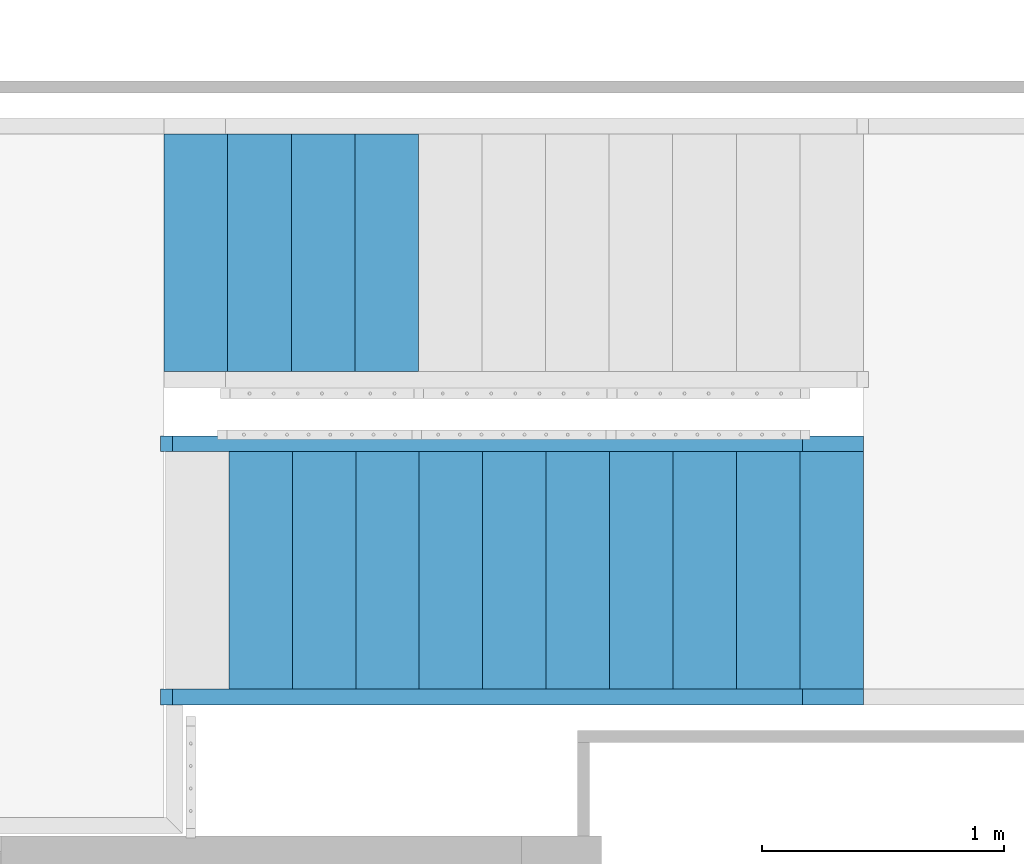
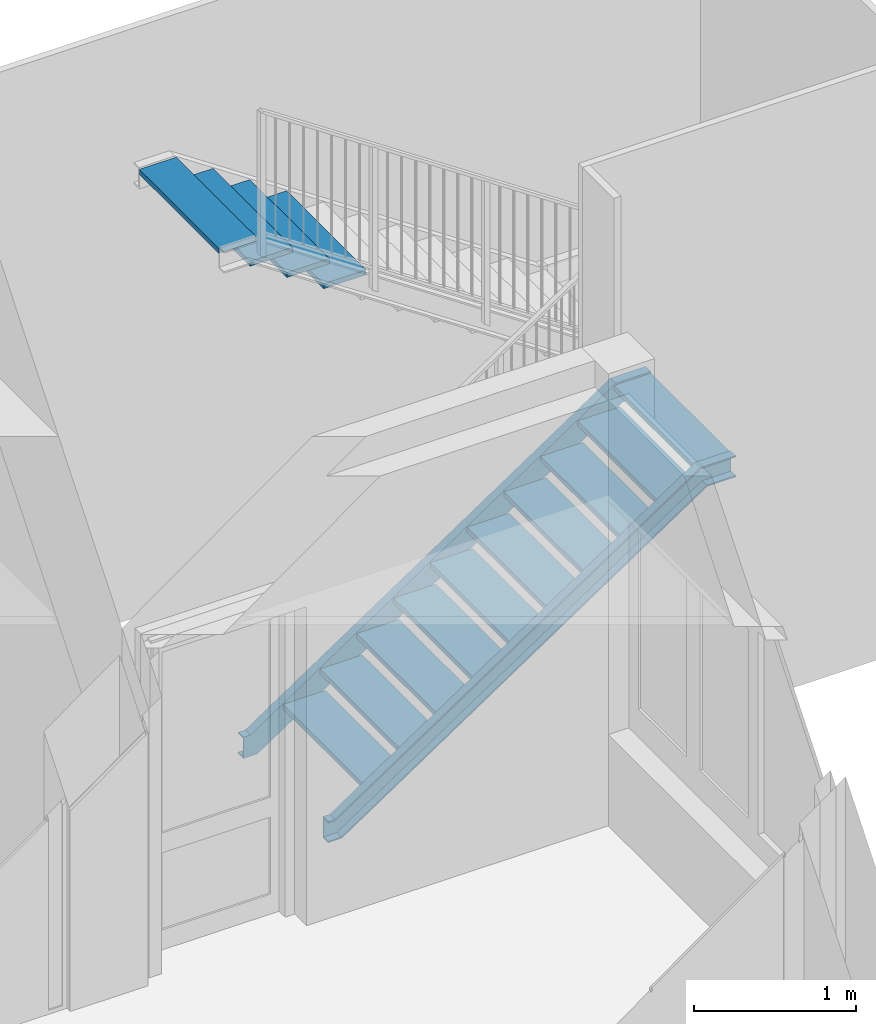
# One storey, part 23 of 117: 16 members, 2 elements without a shape of their own.
"""IFC2X3 building model written with IfcOpenShell, lengths in millimetres."""

from ifc_helpers import new_model, entity, si_unit, converted_unit, derived_unit, money_unit, direction, frame, origin_with_axes, place, context, subcontext, project, spatial, faceted_brep, material, type_object, element, aggregate, save


model = new_model("IFC2X3")

# Units and contexts
model_context = context("Model", 3, precision=0.01, world=origin_with_axes(), true_north=direction((0.0, 1.0)))
body_context = subcontext(model_context, "Body", "Model", "MODEL_VIEW")
ifc_project = project(units=[si_unit("LENGTHUNIT", "METRE", prefix="MILLI"), si_unit("AREAUNIT", "SQUARE_METRE"), si_unit("VOLUMEUNIT", "CUBIC_METRE"), converted_unit("PLANEANGLEUNIT", "DEGREE", entity("IfcPlaneAngleMeasure", 0.0174532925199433), si_unit("PLANEANGLEUNIT", "RADIAN"), dimensions=[0, 0, 0, 0, 0, 0, 0]), money_unit("EUR"), converted_unit("TIMEUNIT", "Year", entity("IfcTimeMeasure", 31557600.0), si_unit("TIMEUNIT", "SECOND"), dimensions=[0, 0, 1, 0, 0, 0, 0]), si_unit("MASSUNIT", "GRAM", prefix="KILO"), si_unit("THERMODYNAMICTEMPERATUREUNIT", "DEGREE_CELSIUS"), si_unit("LUMINOUSINTENSITYUNIT", "LUMEN"), si_unit("ENERGYUNIT", "JOULE", prefix="MEGA"), derived_unit("THERMALCONDUCTANCEUNIT", [(si_unit("POWERUNIT", "WATT"), 1), (si_unit("LENGTHUNIT", "METRE"), -1), (si_unit("THERMODYNAMICTEMPERATUREUNIT", "KELVIN"), -1)]), derived_unit("SPECIFICHEATCAPACITYUNIT", [(si_unit("ENERGYUNIT", "JOULE"), 1), (si_unit("MASSUNIT", "GRAM", prefix="KILO"), -1), (si_unit("THERMODYNAMICTEMPERATUREUNIT", "KELVIN"), -1)]), derived_unit("MASSDENSITYUNIT", [(si_unit("MASSUNIT", "GRAM", prefix="KILO"), 1), (si_unit("VOLUMEUNIT", "CUBIC_METRE"), -1)])], contexts=[model_context])

# Site, building, storey
site_placement = place(None, origin_with_axes())
site = spatial("IfcSite", under=ifc_project, at=site_placement, Name="Site", CompositionType="ELEMENT")
building_placement = place(site_placement, origin_with_axes())
building = spatial("IfcBuilding", under=site, at=building_placement, Name="Naam gebouw", CompositionType="ELEMENT")
storey_placement = place(building_placement, frame((0.0, 0.0, 4150.0), z_axis=(0.0, 0.0, 1.0), x_axis=(1.0, 0.0, 0.0)))
storey = spatial("IfcBuildingStorey", under=building, at=storey_placement, Name="1e verdieping N", CompositionType="ELEMENT", Elevation=4150.0)

# Stair, members
stair_1_placement = place(storey_placement, frame((56130.0, 22240.9124251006, -174.0000000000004), z_axis=(0.0, 0.0, 1.0), x_axis=(-1.0, 0.0, 0.0)))
stair_1 = element("IfcStair", 1, at=stair_1_placement, inside=storey, Name="_Trap-x", ShapeType="NOTDEFINED")
ifc_material = material(Name="Metaal - Staal C")
member_type_1 = type_object("IfcMemberType", Name="IfcMember", PredefinedType="NOTDEFINED")
member_1_placement = place(stair_1_placement, origin_with_axes())
member_1 = element("IfcMember", 2, at=member_1_placement, type_object=member_type_1, material=ifc_material, Name="_Trapconstructie-x", context=body_context, shape_type="Brep", body=[
    faceted_brep([(20.00000000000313, 0.0, 40.00000000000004), (20.00000000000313, -65.00000000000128, 40.00000000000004), (-77.08194542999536, -65.00000000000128, 40.00000000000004), (-77.08194542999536, 0.0, 40.00000000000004), (20.00000000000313, 0.0, 200.0000000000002), (20.00000000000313, -65.00000000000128, 200.0000000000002), (20.00000000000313, -65.00000000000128, 189.4999999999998), (20.00000000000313, -7.500000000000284, 189.4999999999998), (20.00000000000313, -7.500000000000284, 50.50000000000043), (20.00000000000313, -65.00000000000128, 50.50000000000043), (-73.89725855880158, -65.00000000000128, 50.50000000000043), (-342.088580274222, -65.00000000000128, 229.669040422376), (-603.9067620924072, -65.00000000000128, 404.5804137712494), (-865.7249439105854, -65.00000000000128, 579.4917871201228), (-1127.543125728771, -65.00000000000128, 754.4031604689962), (-1389.361307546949, -65.00000000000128, 929.3145338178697), (-1651.179489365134, -65.00000000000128, 1104.225907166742), (-1912.997671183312, -65.00000000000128, 1279.137280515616), (-2174.815853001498, -65.00000000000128, 1454.048653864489), (-2436.634034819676, -65.00000000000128, 1628.960027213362), (-2673.535012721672, -65.00000000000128, 1787.225106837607), (-2879.999999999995, -65.00000000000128, 1787.225106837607), (-2879.999999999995, -65.00000000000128, 1776.725106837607), (-2676.719699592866, -65.00000000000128, 1776.725106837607), (-2442.46683193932, -65.00000000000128, 1620.229135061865), (-2180.648650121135, -65.00000000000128, 1445.317761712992), (-1918.830468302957, -65.00000000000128, 1270.406388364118), (-1657.012286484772, -65.00000000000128, 1095.495015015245), (-1395.194104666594, -65.00000000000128, 920.5836416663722), (-1133.375922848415, -65.00000000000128, 745.6722683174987), (-871.5577410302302, -65.00000000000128, 570.7608949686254), (-609.739559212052, -65.00000000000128, 395.849521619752), (-347.9213773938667, -65.00000000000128, 220.9381482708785), (-2676.719699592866, 0.0, 1776.725106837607), (-2442.46683193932, 0.0, 1620.229135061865), (-2180.648650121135, 0.0, 1445.317761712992), (-1918.830468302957, 0.0, 1270.406388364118), (-1657.012286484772, 0.0, 1095.495015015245), (-1395.194104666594, 0.0, 920.5836416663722), (-1133.375922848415, 0.0, 745.6722683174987), (-871.5577410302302, 0.0, 570.7608949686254), (-609.739559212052, 0.0, 395.849521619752), (-347.9213773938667, 0.0, 220.9381482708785), (-2879.999999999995, 0.0, 1776.725106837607), (-2879.999999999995, 0.0, 1936.725106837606), (-2628.191137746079, 0.0, 1936.725106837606), (-2353.586113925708, 0.0, 1753.271301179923), (-2091.767932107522, 0.0, 1578.359927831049), (-1829.949750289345, 0.0, 1403.448554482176), (-1568.131568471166, 0.0, 1228.537181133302), (-1306.313386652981, 0.0, 1053.625807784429), (-1044.495204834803, 0.0, 878.7144344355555), (-782.6770230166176, 0.0, 703.803061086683), (-520.8588411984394, 0.0, 528.8916877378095), (-259.0406593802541, 0.0, 353.9803143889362), (-28.55338358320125, 0.0, 200.0000000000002), (-28.55338358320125, -65.00000000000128, 200.0000000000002), (-259.0406593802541, -65.00000000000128, 353.9803143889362), (-520.8588411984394, -65.00000000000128, 528.8916877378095), (-782.6770230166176, -65.00000000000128, 703.803061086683), (-1044.495204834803, -65.00000000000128, 878.7144344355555), (-1306.313386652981, -65.00000000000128, 1053.625807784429), (-1568.131568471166, -65.00000000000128, 1228.537181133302), (-1829.949750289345, -65.00000000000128, 1403.448554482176), (-2091.767932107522, -65.00000000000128, 1578.359927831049), (-2353.586113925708, -65.00000000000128, 1753.271301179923), (-2628.191137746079, -65.00000000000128, 1936.725106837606), (-2879.999999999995, -65.00000000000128, 1936.725106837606), (-2879.999999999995, -65.00000000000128, 1926.225106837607), (-2631.375824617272, -65.00000000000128, 1926.225106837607), (-2359.418911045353, -65.00000000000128, 1744.540409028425), (-2097.600729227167, -65.00000000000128, 1569.629035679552), (-1835.782547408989, -65.00000000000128, 1394.717662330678), (-1573.964365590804, -65.00000000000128, 1219.806288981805), (-1312.146183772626, -65.00000000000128, 1044.894915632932), (-1050.32800195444, -65.00000000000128, 869.9835422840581), (-788.5098201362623, -65.00000000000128, 695.0721689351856), (-526.6916383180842, -65.00000000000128, 520.1607955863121), (-264.8734564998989, -65.00000000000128, 345.2494222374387), (-31.73807045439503, -65.00000000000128, 189.4999999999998), (-31.73807045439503, -7.500000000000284, 189.4999999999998), (-264.8734564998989, -7.500000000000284, 345.2494222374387), (-526.6916383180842, -7.500000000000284, 520.1607955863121), (-788.5098201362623, -7.500000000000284, 695.0721689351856), (-1050.32800195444, -7.500000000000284, 869.9835422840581), (-1312.146183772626, -7.500000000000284, 1044.894915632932), (-1573.964365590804, -7.500000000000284, 1219.806288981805), (-1835.782547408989, -7.500000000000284, 1394.717662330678), (-2097.600729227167, -7.500000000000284, 1569.629035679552), (-2359.418911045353, -7.500000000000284, 1744.540409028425), (-2631.375824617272, -7.500000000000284, 1926.225106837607), (-2879.999999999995, -7.500000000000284, 1926.225106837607), (-2879.999999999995, -7.500000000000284, 1787.225106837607), (-2673.535012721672, -7.500000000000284, 1787.225106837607), (-2436.634034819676, -7.500000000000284, 1628.960027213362), (-2174.815853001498, -7.500000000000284, 1454.048653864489), (-1912.997671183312, -7.500000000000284, 1279.137280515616), (-1651.179489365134, -7.500000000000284, 1104.225907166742), (-1389.361307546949, -7.500000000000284, 929.3145338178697), (-1127.543125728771, -7.500000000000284, 754.4031604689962), (-865.7249439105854, -7.500000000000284, 579.4917871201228), (-603.9067620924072, -7.500000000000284, 404.5804137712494), (-342.088580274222, -7.500000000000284, 229.669040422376), (-73.89725855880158, -7.500000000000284, 50.50000000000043)], [[[0, 1, 2, 3]], [[0, 4, 5, 6, 7, 8, 9, 1]], [[1, 9, 10, 11, 12, 13, 14, 15, 16, 17, 18, 19, 20, 21, 22, 23, 24, 25, 26, 27, 28, 29, 30, 31, 32, 2]], [[3, 2, 32, 31, 30, 29, 28, 27, 26, 25, 24, 23, 33, 34, 35, 36, 37, 38, 39, 40, 41, 42]], [[4, 0, 3, 42, 41, 40, 39, 38, 37, 36, 35, 34, 33, 43, 44, 45, 46, 47, 48, 49, 50, 51, 52, 53, 54, 55]], [[5, 4, 55, 56]], [[6, 5, 56, 57, 58, 59, 60, 61, 62, 63, 64, 65, 66, 67, 68, 69, 70, 71, 72, 73, 74, 75, 76, 77, 78, 79]], [[7, 6, 79, 80]], [[8, 7, 80, 81, 82, 83, 84, 85, 86, 87, 88, 89, 90, 91, 92, 93, 94, 95, 96, 97, 98, 99, 100, 101, 102, 103]], [[9, 8, 103, 10]], [[10, 103, 102, 101, 100, 99, 98, 97, 96, 95, 94, 93, 20, 19, 18, 17, 16, 15, 14, 13, 12, 11]], [[20, 93, 92, 21]], [[43, 22, 21, 92, 91, 68, 67, 44]], [[33, 23, 22, 43]], [[66, 45, 44, 67]], [[56, 55, 54, 53, 52, 51, 50, 49, 48, 47, 46, 45, 66, 65, 64, 63, 62, 61, 60, 59, 58, 57]], [[90, 69, 68, 91]], [[80, 79, 78, 77, 76, 75, 74, 73, 72, 71, 70, 69, 90, 89, 88, 87, 86, 85, 84, 83, 82, 81]]]),
])
member_2_placement = place(stair_1_placement, origin_with_axes())
member_2 = element("IfcMember", 3, at=member_2_placement, type_object=member_type_1, material=ifc_material, Name="_Trapconstructie-x", context=body_context, shape_type="Brep", body=[
    faceted_brep([(20.00000000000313, 979.9999999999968, 40.00000000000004), (20.00000000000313, 979.9999999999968, 200.0000000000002), (-28.55338358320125, 979.9999999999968, 200.0000000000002), (-259.0406593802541, 979.9999999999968, 353.9803143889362), (-520.8588411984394, 979.9999999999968, 528.8916877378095), (-782.6770230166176, 979.9999999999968, 703.803061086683), (-1044.495204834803, 979.9999999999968, 878.7144344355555), (-1306.313386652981, 979.9999999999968, 1053.625807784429), (-1568.131568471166, 979.9999999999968, 1228.537181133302), (-1829.949750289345, 979.9999999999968, 1403.448554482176), (-2091.767932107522, 979.9999999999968, 1578.359927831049), (-2353.586113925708, 979.9999999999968, 1753.271301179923), (-2628.191137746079, 979.9999999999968, 1936.725106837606), (-2879.999999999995, 979.9999999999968, 1936.725106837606), (-2879.999999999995, 979.9999999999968, 1776.725106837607), (-2676.719699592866, 979.9999999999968, 1776.725106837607), (-2442.46683193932, 979.9999999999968, 1620.229135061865), (-2180.648650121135, 979.9999999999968, 1445.317761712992), (-1918.830468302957, 979.9999999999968, 1270.406388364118), (-1657.012286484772, 979.9999999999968, 1095.495015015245), (-1395.194104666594, 979.9999999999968, 920.5836416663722), (-1133.375922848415, 979.9999999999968, 745.6722683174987), (-871.5577410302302, 979.9999999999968, 570.7608949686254), (-609.739559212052, 979.9999999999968, 395.849521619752), (-347.9213773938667, 979.9999999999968, 220.9381482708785), (-77.08194542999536, 979.9999999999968, 40.00000000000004), (20.00000000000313, 1044.999999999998, 40.00000000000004), (20.00000000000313, 1044.999999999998, 50.50000000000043), (20.00000000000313, 987.4999999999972, 50.50000000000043), (20.00000000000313, 987.4999999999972, 189.4999999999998), (20.00000000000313, 1044.999999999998, 189.4999999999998), (20.00000000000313, 1044.999999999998, 200.0000000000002), (-28.55338358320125, 1044.999999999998, 200.0000000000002), (-259.0406593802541, 1044.999999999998, 353.9803143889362), (-520.8588411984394, 1044.999999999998, 528.8916877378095), (-782.6770230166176, 1044.999999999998, 703.803061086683), (-1044.495204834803, 1044.999999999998, 878.7144344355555), (-1306.313386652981, 1044.999999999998, 1053.625807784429), (-1568.131568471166, 1044.999999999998, 1228.537181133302), (-1829.949750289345, 1044.999999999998, 1403.448554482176), (-2091.767932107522, 1044.999999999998, 1578.359927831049), (-2353.586113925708, 1044.999999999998, 1753.271301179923), (-2628.191137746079, 1044.999999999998, 1936.725106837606), (-2879.999999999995, 1044.999999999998, 1936.725106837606), (-2879.999999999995, 1044.999999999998, 1926.225106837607), (-2879.999999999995, 987.4999999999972, 1926.225106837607), (-2879.999999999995, 987.4999999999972, 1787.225106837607), (-2879.999999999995, 1044.999999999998, 1787.225106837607), (-2879.999999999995, 1044.999999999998, 1776.725106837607), (-2676.719699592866, 1044.999999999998, 1776.725106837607), (-77.08194542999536, 1044.999999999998, 40.00000000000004), (-2442.46683193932, 1044.999999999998, 1620.229135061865), (-2180.648650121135, 1044.999999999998, 1445.317761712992), (-1918.830468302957, 1044.999999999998, 1270.406388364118), (-1657.012286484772, 1044.999999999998, 1095.495015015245), (-1395.194104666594, 1044.999999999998, 920.5836416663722), (-1133.375922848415, 1044.999999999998, 745.6722683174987), (-871.5577410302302, 1044.999999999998, 570.7608949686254), (-609.739559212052, 1044.999999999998, 395.849521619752), (-347.9213773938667, 1044.999999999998, 220.9381482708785), (-2673.535012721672, 1044.999999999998, 1787.225106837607), (-2436.634034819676, 1044.999999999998, 1628.960027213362), (-2174.815853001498, 1044.999999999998, 1454.048653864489), (-1912.997671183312, 1044.999999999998, 1279.137280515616), (-1651.179489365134, 1044.999999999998, 1104.225907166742), (-1389.361307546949, 1044.999999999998, 929.3145338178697), (-1127.543125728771, 1044.999999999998, 754.4031604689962), (-865.7249439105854, 1044.999999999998, 579.4917871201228), (-603.9067620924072, 1044.999999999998, 404.5804137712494), (-342.088580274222, 1044.999999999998, 229.669040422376), (-73.89725855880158, 1044.999999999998, 50.50000000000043), (-73.89725855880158, 987.4999999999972, 50.50000000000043), (-342.088580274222, 987.4999999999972, 229.669040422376), (-603.9067620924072, 987.4999999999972, 404.5804137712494), (-865.7249439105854, 987.4999999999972, 579.4917871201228), (-1127.543125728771, 987.4999999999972, 754.4031604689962), (-1389.361307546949, 987.4999999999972, 929.3145338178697), (-1651.179489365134, 987.4999999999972, 1104.225907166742), (-1912.997671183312, 987.4999999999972, 1279.137280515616), (-2174.815853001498, 987.4999999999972, 1454.048653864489), (-2436.634034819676, 987.4999999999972, 1628.960027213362), (-2673.535012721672, 987.4999999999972, 1787.225106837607), (-2631.375824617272, 987.4999999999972, 1926.225106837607), (-2359.418911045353, 987.4999999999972, 1744.540409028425), (-2097.600729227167, 987.4999999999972, 1569.629035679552), (-1835.782547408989, 987.4999999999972, 1394.717662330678), (-1573.964365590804, 987.4999999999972, 1219.806288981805), (-1312.146183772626, 987.4999999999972, 1044.894915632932), (-1050.32800195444, 987.4999999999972, 869.9835422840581), (-788.5098201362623, 987.4999999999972, 695.0721689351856), (-526.6916383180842, 987.4999999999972, 520.1607955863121), (-264.8734564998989, 987.4999999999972, 345.2494222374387), (-31.73807045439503, 987.4999999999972, 189.4999999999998), (-31.73807045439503, 1044.999999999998, 189.4999999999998), (-264.8734564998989, 1044.999999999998, 345.2494222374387), (-526.6916383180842, 1044.999999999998, 520.1607955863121), (-788.5098201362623, 1044.999999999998, 695.0721689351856), (-1050.32800195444, 1044.999999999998, 869.9835422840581), (-1312.146183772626, 1044.999999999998, 1044.894915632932), (-1573.964365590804, 1044.999999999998, 1219.806288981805), (-1835.782547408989, 1044.999999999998, 1394.717662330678), (-2097.600729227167, 1044.999999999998, 1569.629035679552), (-2359.418911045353, 1044.999999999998, 1744.540409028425), (-2631.375824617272, 1044.999999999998, 1926.225106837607)], [[[0, 1, 2, 3, 4, 5, 6, 7, 8, 9, 10, 11, 12, 13, 14, 15, 16, 17, 18, 19, 20, 21, 22, 23, 24, 25]], [[0, 26, 27, 28, 29, 30, 31, 1]], [[1, 31, 32, 2]], [[2, 32, 33, 34, 35, 36, 37, 38, 39, 40, 41, 42, 12, 11, 10, 9, 8, 7, 6, 5, 4, 3]], [[12, 42, 43, 13]], [[14, 13, 43, 44, 45, 46, 47, 48]], [[49, 15, 14, 48]], [[50, 25, 24, 23, 22, 21, 20, 19, 18, 17, 16, 15, 49, 51, 52, 53, 54, 55, 56, 57, 58, 59]], [[26, 0, 25, 50]], [[27, 26, 50, 59, 58, 57, 56, 55, 54, 53, 52, 51, 49, 48, 47, 60, 61, 62, 63, 64, 65, 66, 67, 68, 69, 70]], [[28, 27, 70, 71]], [[29, 28, 71, 72, 73, 74, 75, 76, 77, 78, 79, 80, 81, 46, 45, 82, 83, 84, 85, 86, 87, 88, 89, 90, 91, 92]], [[30, 29, 92, 93]], [[31, 30, 93, 94, 95, 96, 97, 98, 99, 100, 101, 102, 103, 44, 43, 42, 41, 40, 39, 38, 37, 36, 35, 34, 33, 32]], [[103, 82, 45, 44]], [[81, 60, 47, 46]], [[71, 70, 69, 68, 67, 66, 65, 64, 63, 62, 61, 60, 81, 80, 79, 78, 77, 76, 75, 74, 73, 72]], [[93, 92, 91, 90, 89, 88, 87, 86, 85, 84, 83, 82, 103, 102, 101, 100, 99, 98, 97, 96, 95, 94]]]),
])
member_type_2 = type_object("IfcMemberType", Name="IfcMember", PredefinedType="USERDEFINED")
member_3_placement = place(stair_1_placement, frame((-261.8181818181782, 489.9999999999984, 349.8227466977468), z_axis=(0.0, 0.0, 1.0), x_axis=(0.0, 1.0, 0.0)))
member_3 = element("IfcMember", 4, at=member_3_placement, type_object=member_type_2, material=ifc_material, Name="_Traptrede-x", context=body_context, shape_type="Brep", body=[
    faceted_brep([(-490.0, 0.0, -38.0), (490.0, 0.0, -38.0), (490.0, 0.0, 0.0), (-490.0, 0.0, 0.0), (-490.0, 301.8181818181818, -38.0), (490.0, 301.8181818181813, -38.0), (490.0, 301.8181818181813, 0.0), (-490.0, 301.8181818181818, 0.0)], [[[0, 1, 2, 3]], [[0, 4, 5, 1]], [[1, 5, 6, 2]], [[3, 2, 6, 7]], [[4, 0, 3, 7]], [[5, 4, 7, 6]]]),
])
member_4_placement = place(stair_1_placement, frame((-785.4545454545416, 489.9999999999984, 699.6454933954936), z_axis=(0.0, 0.0, 1.0), x_axis=(0.0, 1.0, 0.0)))
member_4 = element("IfcMember", 5, at=member_4_placement, type_object=member_type_2, material=ifc_material, Name="_Traptrede-x", context=body_context, shape_type="Brep", body=[
    faceted_brep([(-490.0, 0.0, -38.0), (490.0, 0.0, -38.0), (490.0, 0.0, 0.0), (-490.0, 0.0, 0.0), (-490.0, 301.8181818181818, -38.0), (490.0, 301.8181818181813, -38.0), (490.0, 301.8181818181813, 0.0), (-490.0, 301.8181818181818, 0.0)], [[[0, 1, 2, 3]], [[0, 4, 5, 1]], [[1, 5, 6, 2]], [[3, 2, 6, 7]], [[4, 0, 3, 7]], [[5, 4, 7, 6]]]),
])
member_5_placement = place(stair_1_placement, frame((-1047.272727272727, 489.9999999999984, 874.5568667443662), z_axis=(0.0, 0.0, 1.0), x_axis=(0.0, 1.0, 0.0)))
member_5 = element("IfcMember", 6, at=member_5_placement, type_object=member_type_2, material=ifc_material, Name="_Traptrede-x", context=body_context, shape_type="Brep", body=[
    faceted_brep([(-490.0, 0.0, -38.0), (490.0, 0.0, -38.0), (490.0, 0.0, 0.0), (-490.0, 0.0, 0.0), (-490.0, 301.8181818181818, -38.0), (490.0, 301.8181818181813, -38.0), (490.0, 301.8181818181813, 0.0), (-490.0, 301.8181818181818, 0.0)], [[[0, 1, 2, 3]], [[0, 4, 5, 1]], [[1, 5, 6, 2]], [[3, 2, 6, 7]], [[4, 0, 3, 7]], [[5, 4, 7, 6]]]),
])
member_6_placement = place(stair_1_placement, frame((-1309.090909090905, 489.9999999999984, 1049.46824009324), z_axis=(0.0, 0.0, 1.0), x_axis=(0.0, 1.0, 0.0)))
member_6 = element("IfcMember", 7, at=member_6_placement, type_object=member_type_2, material=ifc_material, Name="_Traptrede-x", context=body_context, shape_type="Brep", body=[
    faceted_brep([(-490.0, 0.0, -38.0), (490.0, 0.0, -38.0), (490.0, 0.0, 0.0), (-490.0, 0.0, 0.0), (-490.0, 301.8181818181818, -38.0), (490.0, 301.8181818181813, -38.0), (490.0, 301.8181818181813, 0.0), (-490.0, 301.8181818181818, 0.0)], [[[0, 1, 2, 3]], [[0, 4, 5, 1]], [[1, 5, 6, 2]], [[3, 2, 6, 7]], [[4, 0, 3, 7]], [[5, 4, 7, 6]]]),
])
member_7_placement = place(stair_1_placement, frame((-1570.90909090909, 489.9999999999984, 1224.379613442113), z_axis=(0.0, 0.0, 1.0), x_axis=(0.0, 1.0, 0.0)))
member_7 = element("IfcMember", 8, at=member_7_placement, type_object=member_type_2, material=ifc_material, Name="_Traptrede-x", context=body_context, shape_type="Brep", body=[
    faceted_brep([(-490.0, 0.0, -38.0), (490.0, 0.0, -38.0), (490.0, 0.0, 0.0), (-490.0, 0.0, 0.0), (-490.0, 301.8181818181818, -38.0), (490.0, 301.8181818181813, -38.0), (490.0, 301.8181818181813, 0.0), (-490.0, 301.8181818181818, 0.0)], [[[0, 1, 2, 3]], [[0, 4, 5, 1]], [[1, 5, 6, 2]], [[3, 2, 6, 7]], [[4, 0, 3, 7]], [[5, 4, 7, 6]]]),
])
member_8_placement = place(stair_1_placement, frame((-1832.727272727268, 489.9999999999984, 1399.290986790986), z_axis=(0.0, 0.0, 1.0), x_axis=(0.0, 1.0, 0.0)))
member_8 = element("IfcMember", 9, at=member_8_placement, type_object=member_type_2, material=ifc_material, Name="_Traptrede-x", context=body_context, shape_type="Brep", body=[
    faceted_brep([(-490.0, 0.0, -38.0), (490.0, 0.0, -38.0), (490.0, 0.0, 0.0), (-490.0, 0.0, 0.0), (-490.0, 301.8181818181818, -38.0), (490.0, 301.8181818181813, -38.0), (490.0, 301.8181818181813, 0.0), (-490.0, 301.8181818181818, 0.0)], [[[0, 1, 2, 3]], [[0, 4, 5, 1]], [[1, 5, 6, 2]], [[3, 2, 6, 7]], [[4, 0, 3, 7]], [[5, 4, 7, 6]]]),
])
member_9_placement = place(stair_1_placement, frame((-2356.363636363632, 489.9999999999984, 1749.113733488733), z_axis=(0.0, 0.0, 1.0), x_axis=(0.0, 1.0, 0.0)))
member_9 = element("IfcMember", 10, at=member_9_placement, type_object=member_type_2, material=ifc_material, Name="_Traptrede-x", context=body_context, shape_type="Brep", body=[
    faceted_brep([(-490.0, 0.0, -38.0), (490.0, 0.0, -38.0), (490.0, 0.0, 0.0), (-490.0, 0.0, 0.0), (-490.0, 301.8181818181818, -38.0), (490.0, 301.8181818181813, -38.0), (490.0, 301.8181818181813, 0.0), (-490.0, 301.8181818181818, 0.0)], [[[0, 1, 2, 3]], [[0, 4, 5, 1]], [[1, 5, 6, 2]], [[3, 2, 6, 7]], [[4, 0, 3, 7]], [[5, 4, 7, 6]]]),
])
member_10_placement = place(stair_1_placement, frame((-2618.181818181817, 489.9999999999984, 1924.025106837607), z_axis=(0.0, 0.0, 1.0), x_axis=(0.0, 1.0, 0.0)))
member_10 = element("IfcMember", 11, at=member_10_placement, type_object=member_type_2, material=ifc_material, Name="_Traptrede-x", context=body_context, shape_type="Brep", body=[
    faceted_brep([(-490.0, 0.0, -38.0), (489.9999999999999, 0.0, -38.0), (489.9999999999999, 0.0, 0.0), (-490.0, 0.0, 0.0), (-490.0000000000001, 261.8181818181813, -38.0), (489.9999999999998, 261.8181818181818, -38.0), (489.9999999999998, 261.8181818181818, 0.0), (-490.0000000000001, 261.8181818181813, 0.0)], [[[0, 1, 2, 3]], [[0, 4, 5, 1]], [[1, 5, 6, 2]], [[3, 2, 6, 7]], [[4, 0, 3, 7]], [[5, 4, 7, 6]]]),
])
member_11_placement = place(stair_1_placement, frame((-523.6363636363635, 489.9999999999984, 524.7341200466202), z_axis=(0.0, 0.0, 1.0), x_axis=(0.0, 1.0, 0.0)))
member_11 = element("IfcMember", 12, at=member_11_placement, type_object=member_type_2, material=ifc_material, Name="_Traptrede-x", context=body_context, shape_type="Brep", body=[
    faceted_brep([(-490.0, 0.0, -38.0), (490.0, 0.0, -38.0), (490.0, 0.0, 0.0), (-490.0, 0.0, 0.0), (-490.0, 301.8181818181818, -38.0), (490.0, 301.8181818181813, -38.0), (490.0, 301.8181818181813, 0.0), (-490.0, 301.8181818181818, 0.0)], [[[0, 1, 2, 3]], [[0, 4, 5, 1]], [[1, 5, 6, 2]], [[3, 2, 6, 7]], [[4, 0, 3, 7]], [[5, 4, 7, 6]]]),
])
member_12_placement = place(stair_1_placement, frame((-2094.545454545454, 489.9999999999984, 1574.20236013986), z_axis=(0.0, 0.0, 1.0), x_axis=(0.0, 1.0, 0.0)))
member_12 = element("IfcMember", 13, at=member_12_placement, type_object=member_type_2, material=ifc_material, Name="_Traptrede-x", context=body_context, shape_type="Brep", body=[
    faceted_brep([(-490.0, 0.0, -38.0), (490.0, 0.0, -38.0), (490.0, 0.0, 0.0), (-490.0, 0.0, 0.0), (-490.0, 301.8181818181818, -38.0), (490.0, 301.8181818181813, -38.0), (490.0, 301.8181818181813, 0.0), (-490.0, 301.8181818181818, 0.0)], [[[0, 1, 2, 3]], [[0, 4, 5, 1]], [[1, 5, 6, 2]], [[3, 2, 6, 7]], [[4, 0, 3, 7]], [[5, 4, 7, 6]]]),
])
aggregate(stair_1, [member_1, member_2, member_3, member_4, member_5, member_6, member_7, member_8, member_9, member_10, member_11, member_12])

stair_2_placement = place(storey_placement, frame((59009.99999999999, 22570.91242510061, 1562.7), z_axis=(0.0, 0.0, 1.0), x_axis=(1.0, 0.0, 0.0)))
stair_2 = element("IfcStair", 14, at=stair_2_placement, inside=storey, Name="_Trap-x", ShapeType="NOTDEFINED")
member_13_placement = place(stair_2_placement, frame((-1836.130050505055, 489.9999999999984, 1408.964646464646), z_axis=(0.0, 0.0, 1.0), x_axis=(0.0, 1.0, 0.0)))
member_13 = element("IfcMember", 15, at=member_13_placement, type_object=member_type_2, material=ifc_material, Name="_Traptrede-x", context=body_context, shape_type="Brep", body=[
    faceted_brep([(-490.0, 0.0, -38.0), (490.0, 0.0, -38.0), (490.0, 0.0, 0.0), (-490.0, 0.0, 0.0), (-490.0, 302.304292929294, -38.0), (490.0, 302.3042929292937, -38.0), (490.0, 302.3042929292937, 0.0), (-490.0, 302.304292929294, 0.0)], [[[0, 1, 2, 3]], [[0, 4, 5, 1]], [[1, 5, 6, 2]], [[3, 2, 6, 7]], [[4, 0, 3, 7]], [[5, 4, 7, 6]]]),
])
member_14_placement = place(stair_2_placement, frame((-2098.434343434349, 489.9999999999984, 1585.085227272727), z_axis=(0.0, 0.0, 1.0), x_axis=(0.0, 1.0, 0.0)))
member_14 = element("IfcMember", 16, at=member_14_placement, type_object=member_type_2, material=ifc_material, Name="_Traptrede-x", context=body_context, shape_type="Brep", body=[
    faceted_brep([(-490.0, 0.0, -38.0), (490.0, 0.0, -38.0), (490.0, 0.0, 0.0), (-490.0, 0.0, 0.0), (-490.0, 302.304292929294, -38.0), (490.0, 302.3042929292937, -38.0), (490.0, 302.3042929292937, 0.0), (-490.0, 302.304292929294, 0.0)], [[[0, 1, 2, 3]], [[0, 4, 5, 1]], [[1, 5, 6, 2]], [[3, 2, 6, 7]], [[4, 0, 3, 7]], [[5, 4, 7, 6]]]),
])
member_15_placement = place(stair_2_placement, frame((-2623.042929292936, 489.9999999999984, 1937.326388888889), z_axis=(0.0, 0.0, 1.0), x_axis=(0.0, 1.0, 0.0)))
member_15 = element("IfcMember", 17, at=member_15_placement, type_object=member_type_2, material=ifc_material, Name="_Traptrede-x", context=body_context, shape_type="Brep", body=[
    faceted_brep([(-490.0, 0.0, -38.0), (490.0, 0.0, -38.0), (490.0, 0.0, 0.0), (-490.0, 0.0, 0.0), (-490.0, 262.3042929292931, -38.0), (490.0, 262.3042929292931, -38.0), (490.0, 262.3042929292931, 0.0), (-490.0, 262.3042929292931, 0.0)], [[[0, 1, 2, 3]], [[0, 4, 5, 1]], [[1, 5, 6, 2]], [[3, 2, 6, 7]], [[4, 0, 3, 7]], [[5, 4, 7, 6]]]),
])
member_16_placement = place(stair_2_placement, frame((-2360.738636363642, 489.9999999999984, 1761.205808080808), z_axis=(0.0, 0.0, 1.0), x_axis=(0.0, 1.0, 0.0)))
member_16 = element("IfcMember", 18, at=member_16_placement, type_object=member_type_2, material=ifc_material, Name="_Traptrede-x", context=body_context, shape_type="Brep", body=[
    faceted_brep([(-490.0, 0.0, -38.0), (490.0, 0.0, -38.0), (490.0, 0.0, 0.0), (-490.0, 0.0, 0.0), (-490.0, 302.304292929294, -38.0), (490.0, 302.3042929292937, -38.0), (490.0, 302.3042929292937, 0.0), (-490.0, 302.304292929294, 0.0)], [[[0, 1, 2, 3]], [[0, 4, 5, 1]], [[1, 5, 6, 2]], [[3, 2, 6, 7]], [[4, 0, 3, 7]], [[5, 4, 7, 6]]]),
])
aggregate(stair_2, [member_13, member_14, member_15, member_16])

save(model, "model.ifc")
